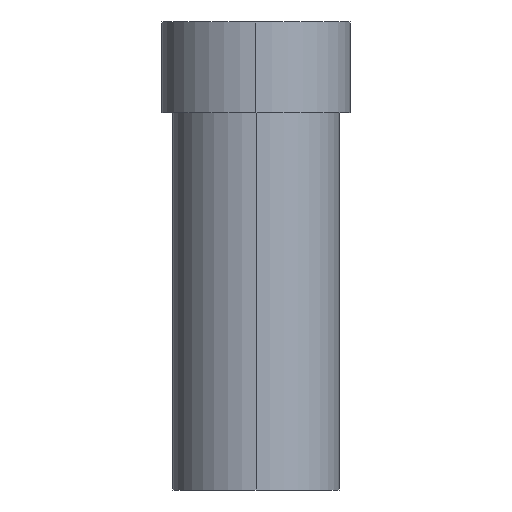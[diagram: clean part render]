
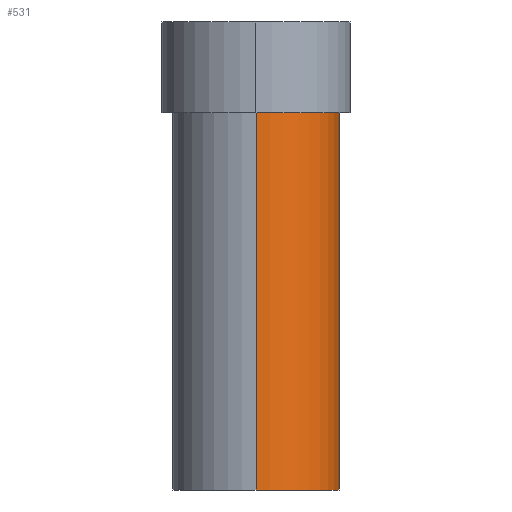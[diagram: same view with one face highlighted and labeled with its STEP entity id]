
A CAD part, left-side view. The second image highlights one B-rep face of the part: STEP entity #531.
In plain terms, the highlighted cylindrical face has radius 11 mm (diameter 22 mm), a partial arc.
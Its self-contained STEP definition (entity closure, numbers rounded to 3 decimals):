
#229 = VECTOR ( 'NONE', #3714, 1000. ) ;
#531 = ADVANCED_FACE ( 'NONE', ( #2261 ), #2235, .T. ) ;
#701 = EDGE_CURVE ( 'NONE', #1992, #2007, #1814, .T. ) ;
#708 = EDGE_CURVE ( 'NONE', #1977, #1992, #1665, .T. ) ;
#723 = EDGE_CURVE ( 'NONE', #1977, #1988, #1834, .T. ) ;
#749 = EDGE_CURVE ( 'NONE', #1988, #2007, #1696, .T. ) ;
#1665 = LINE ( 'NONE', #3604, #1830 ) ;
#1696 = LINE ( 'NONE', #3681, #229 ) ;
#1814 = CIRCLE ( 'NONE', #1820, 11. ) ;
#1820 = AXIS2_PLACEMENT_3D ( 'NONE', #3569, #3563, #3574 ) ;
#1830 = VECTOR ( 'NONE', #3590, 1000. ) ;
#1834 = CIRCLE ( 'NONE', #1850, 11. ) ;
#1850 = AXIS2_PLACEMENT_3D ( 'NONE', #3630, #3626, #3643 ) ;
#1977 = VERTEX_POINT ( 'NONE', #2788 ) ;
#1988 = VERTEX_POINT ( 'NONE', #2807 ) ;
#1992 = VERTEX_POINT ( 'NONE', #2813 ) ;
#2007 = VERTEX_POINT ( 'NONE', #2834 ) ;
#2235 = CYLINDRICAL_SURFACE ( 'NONE', #3977, 11. ) ;
#2261 = FACE_OUTER_BOUND ( 'NONE', #2501, .T. ) ;
#2330 = ORIENTED_EDGE ( 'NONE', *, *, #723, .F. ) ;
#2337 = ORIENTED_EDGE ( 'NONE', *, *, #701, .T. ) ;
#2339 = ORIENTED_EDGE ( 'NONE', *, *, #749, .F. ) ;
#2348 = ORIENTED_EDGE ( 'NONE', *, *, #708, .T. ) ;
#2501 = EDGE_LOOP ( 'NONE', ( #2330, #2348, #2337, #2339 ) ) ;
#2788 = CARTESIAN_POINT ( 'NONE',  ( -21., 0., 50. ) ) ;
#2807 = CARTESIAN_POINT ( 'NONE',  ( -10., -11., 50. ) ) ;
#2813 = CARTESIAN_POINT ( 'NONE',  ( -21., 0., 0. ) ) ;
#2834 = CARTESIAN_POINT ( 'NONE',  ( -10., -11., 0. ) ) ;
#2960 = DIRECTION ( 'NONE',  ( -1., 0., 0. ) ) ;
#2965 = CARTESIAN_POINT ( 'NONE',  ( -10., 0., 50. ) ) ;
#2983 = DIRECTION ( 'NONE',  ( 0., 0., -1. ) ) ;
#3563 = DIRECTION ( 'NONE',  ( 0., 0., 1. ) ) ;
#3569 = CARTESIAN_POINT ( 'NONE',  ( -10., 0., 0. ) ) ;
#3574 = DIRECTION ( 'NONE',  ( 1., 0., 0. ) ) ;
#3590 = DIRECTION ( 'NONE',  ( 0., 0., -1. ) ) ;
#3604 = CARTESIAN_POINT ( 'NONE',  ( -21., 0., 50. ) ) ;
#3626 = DIRECTION ( 'NONE',  ( 0., 0., 1. ) ) ;
#3630 = CARTESIAN_POINT ( 'NONE',  ( -10., 0., 50. ) ) ;
#3643 = DIRECTION ( 'NONE',  ( 1., 0., 0. ) ) ;
#3681 = CARTESIAN_POINT ( 'NONE',  ( -10., -11., 50. ) ) ;
#3714 = DIRECTION ( 'NONE',  ( 0., 0., -1. ) ) ;
#3977 = AXIS2_PLACEMENT_3D ( 'NONE', #2965, #2983, #2960 ) ;
